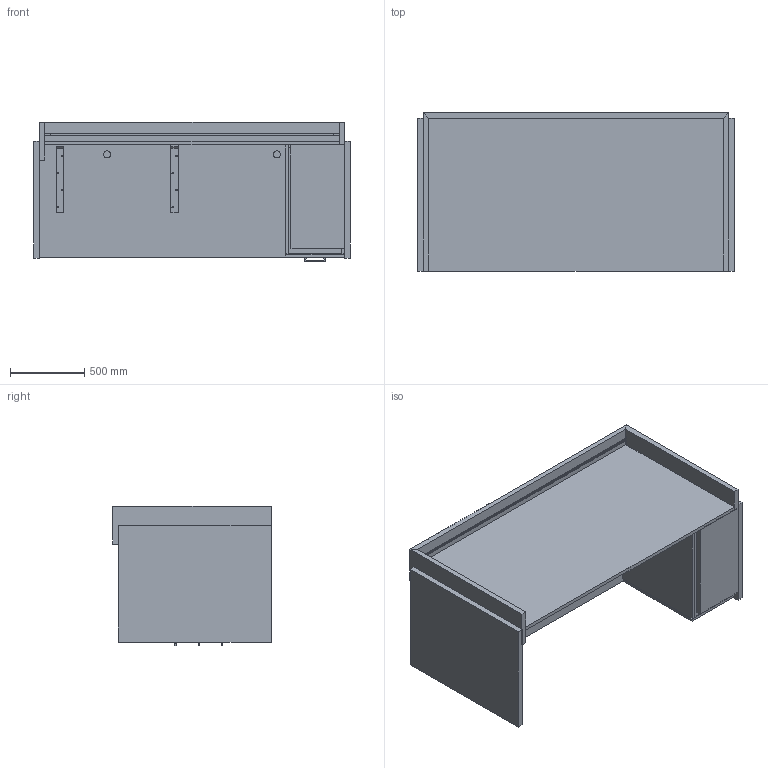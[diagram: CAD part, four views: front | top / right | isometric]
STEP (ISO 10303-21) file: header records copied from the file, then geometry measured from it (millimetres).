
FILE_DESCRIPTION(/* description */ ('','CAx-IF Rec.Pracs.---Representation and Presentation of Product Manufacturing Information (PMI)---4.0---2014-10-13'),/* implementation_level */ '2;1');
FILE_NAME(/* name */ 'RECEPTION_FOUNDATION 3.stp',/* time_stamp */ '2024-12-07T18:49:40-05:00',/* author */ ('mbowman'),/* organization */ (''),/* preprocessor_version */ 'ST-DEVELOPER v19.2',/* originating_system */ 'Autodesk Inventor 2023',/* authorisation */ '');
FILE_SCHEMA (('AP242_MANAGED_MODEL_BASED_3D_ENGINEERING_MIM_LF { 1 0 10303 442 1 1 4 }'));
Length unit declared in the file: inch
Products named in the file (9): FOUNDATION^ADMIN 3_STRAIGHT-SOLID ASSEMBLY; FOUNDATION^ADMIN 3_STRAIGHT-PARTS SOLID; FOUNDATION^ADMIN 3_42x81 STRAIGHT FRONT TRANSACTION-PARTS SOLID; FOUNDATION^PEDESTAL_LETTER BBF 26x29.75D-SOLID ASSEMBLY; FOUNDATION^PEDESTAL_LETTER BBF 26x29.75D-PARTS SOLID; SCHWINN 22334 PULL; CANTILEVER BRACKET-10x18; FOUNDATION^PEDESTAL_PLINTH-14.25x27.38; HAFELE^BUS BAR LIGHT_ALUMINUM EXTRUSION-LIGHT BAR (MOD LENGTH 78)
Assembly tree (11 placements, depth 3):
  FOUNDATION^ADMIN 3_STRAIGHT-SOLID ASSEMBLY
    FOUNDATION^ADMIN 3_STRAIGHT-PARTS SOLID
    FOUNDATION^ADMIN 3_42x81 STRAIGHT FRONT TRANSACTION-PARTS SOLID
    FOUNDATION^PEDESTAL_LETTER BBF 26x29.75D-SOLID ASSEMBLY
      FOUNDATION^PEDESTAL_LETTER BBF 26x29.75D-PARTS SOLID
      SCHWINN 22334 PULL  x3
    CANTILEVER BRACKET-10x18  x2
    FOUNDATION^PEDESTAL_PLINTH-14.25x27.38
    HAFELE^BUS BAR LIGHT_ALUMINUM EXTRUSION-LIGHT BAR (MOD LENGTH 78)
Bounding box: 2133.6 x 1066.8 x 938.21 mm (x, y, z)
Volume: 259008031.1 mm3; surface area: 18717181.2 mm2
Topology: 29 solids, 29 shells, 282 faces, 658 edges, 434 vertices
Faces by surface type: plane 220, cylinder 46, cone 14, bspline 2
Full cylindrical faces by diameter (mm): 3.683 x6, 6.35 x8, 7 x2, 7.7 x2, 7.938 x6, 48.26 x2
Entity records: 8063 total; most frequent: CARTESIAN_POINT 1664, DIRECTION 1151, ORIENTED_EDGE 1022, EDGE_CURVE 511, LINE 451, VECTOR 451, AXIS2_PLACEMENT_3D 350, VERTEX_POINT 340
